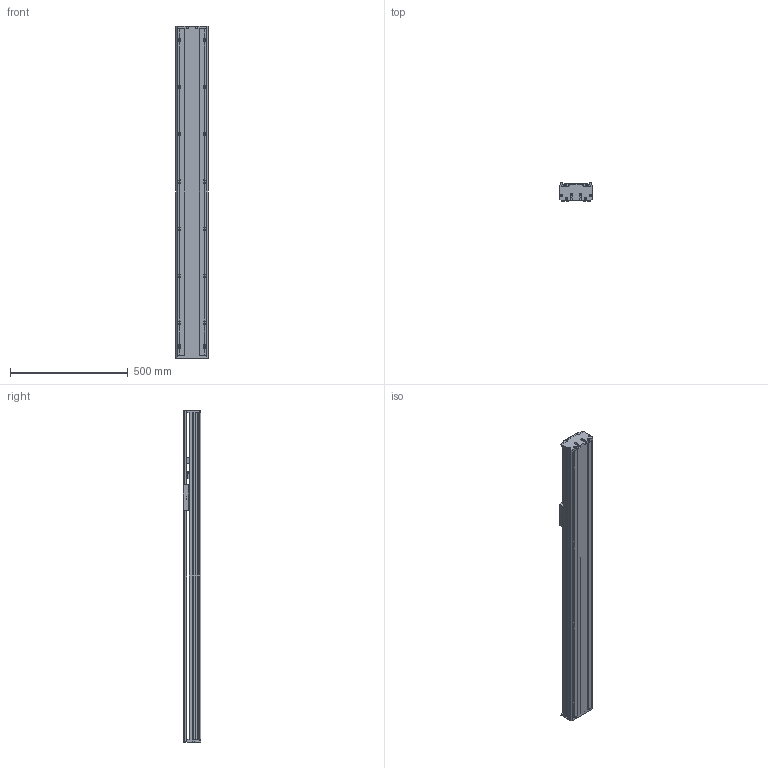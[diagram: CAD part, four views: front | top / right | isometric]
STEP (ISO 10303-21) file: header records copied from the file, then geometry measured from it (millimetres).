
FILE_DESCRIPTION(/* description */ (''),/* implementation_level */ '2;1');
FILE_NAME(/* name */ 'TKA136-FI-950_asm1.stp',/* time_stamp */ '2016-05-07T10:48:12+08:00',/* author */ (''),/* organization */ (''),/* preprocessor_version */ 'ST-DEVELOPER v15',/* originating_system */ 'SIEMENS PLM Software NX 8.5',/* authorisation */ '');
FILE_SCHEMA (('AUTOMOTIVE_DESIGN { 1 0 10303 214 3 1 1 1 }'));
Length unit declared in the file: millimetre
Products named in the file (3): 100-02; 100-01; TKA136-FI-950_asm1
Assembly tree (2 placements, depth 2):
  TKA136-FI-950_asm1
    100-01
    100-02
Bounding box: 136 x 75 x 1409 mm (x, y, z)
Volume: 4234508.5 mm3; surface area: 1605744.8 mm2
Topology: 2 solids, 12 shells, 991 faces, 2906 edges, 1907 vertices
Faces by surface type: cylinder 501, plane 440, cone 50
Full cylindrical faces by diameter (mm): 2.5 x4, 3.3 x8, 4.2 x8, 4.5 x20, 5 x14, 5.5 x14, 8 x20, 10 x9, 10.5 x10, 11.6 x1, 12 x8, 15 x3, 16 x5, 24 x3, 26 x1, 28 x1, 46 x1
Entity records: 35297 total; most frequent: CARTESIAN_POINT 9401, ORIENTED_EDGE 5368, DIRECTION 5270, EDGE_CURVE 2684, AXIS2_PLACEMENT_3D 1960, VERTEX_POINT 1859, LINE 1350, VECTOR 1350
